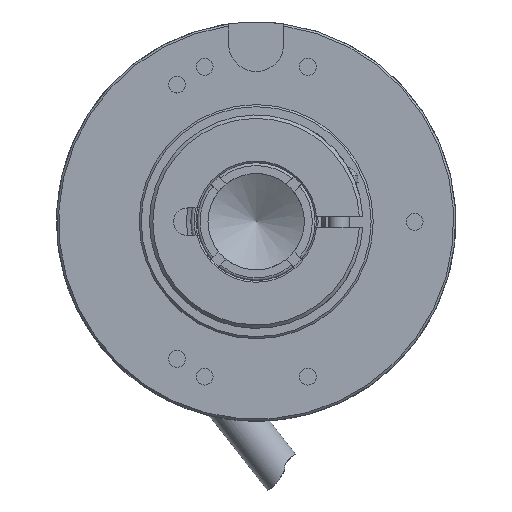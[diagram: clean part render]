
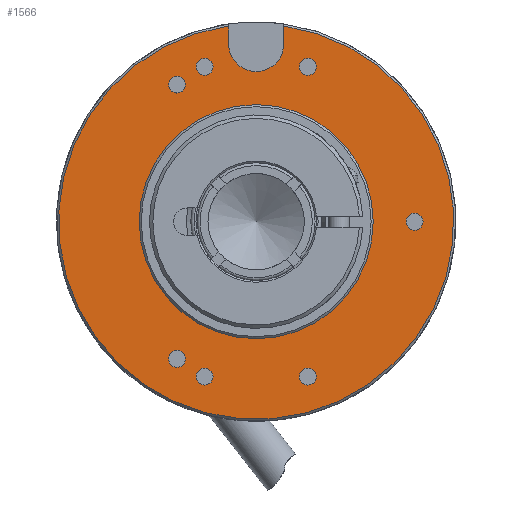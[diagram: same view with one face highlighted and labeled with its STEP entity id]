
A CAD part, left-side view. The second image highlights one B-rep face of the part: STEP entity #1566.
In plain terms, the highlighted planar face has unit normal (-1, 0, 0).
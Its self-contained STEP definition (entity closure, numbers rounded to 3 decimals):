
#1566 = ADVANCED_FACE( '', ( #3282, #3283, #3284, #3285, #3286, #3287, #3288, #3289, #3290 ), #3291, .T. );
#3282 = FACE_OUTER_BOUND( '', #34683, .T. );
#3283 = FACE_BOUND( '', #34684, .T. );
#3284 = FACE_BOUND( '', #34685, .T. );
#3285 = FACE_BOUND( '', #34686, .T. );
#3286 = FACE_BOUND( '', #34687, .T. );
#3287 = FACE_BOUND( '', #34688, .T. );
#3288 = FACE_BOUND( '', #34689, .T. );
#3289 = FACE_BOUND( '', #34690, .T. );
#3290 = FACE_BOUND( '', #34691, .T. );
#3291 = PLANE( '', #34692 );
#34683 = EDGE_LOOP( '', ( #40222, #40223, #40224, #40225 ) );
#34684 = EDGE_LOOP( '', ( #40226 ) );
#34685 = EDGE_LOOP( '', ( #40227 ) );
#34686 = EDGE_LOOP( '', ( #40228 ) );
#34687 = EDGE_LOOP( '', ( #40229 ) );
#34688 = EDGE_LOOP( '', ( #40230 ) );
#34689 = EDGE_LOOP( '', ( #40231 ) );
#34690 = EDGE_LOOP( '', ( #40232 ) );
#34691 = EDGE_LOOP( '', ( #40233 ) );
#34692 = AXIS2_PLACEMENT_3D( '', #40234, #40235, #40236 );
#40222 = ORIENTED_EDGE( '', *, *, #42069, .T. );
#40223 = ORIENTED_EDGE( '', *, *, #41590, .T. );
#40224 = ORIENTED_EDGE( '', *, *, #41502, .T. );
#40225 = ORIENTED_EDGE( '', *, *, #42032, .T. );
#40226 = ORIENTED_EDGE( '', *, *, #41699, .T. );
#40227 = ORIENTED_EDGE( '', *, *, #42085, .T. );
#40228 = ORIENTED_EDGE( '', *, *, #40852, .T. );
#40229 = ORIENTED_EDGE( '', *, *, #42277, .T. );
#40230 = ORIENTED_EDGE( '', *, *, #42171, .T. );
#40231 = ORIENTED_EDGE( '', *, *, #41928, .T. );
#40232 = ORIENTED_EDGE( '', *, *, #40823, .T. );
#40233 = ORIENTED_EDGE( '', *, *, #41484, .F. );
#40234 = CARTESIAN_POINT( '', ( 15., -19.789, 11.425 ) );
#40235 = DIRECTION( '', ( -1., 0., 0. ) );
#40236 = DIRECTION( '', ( 0., 0., 1. ) );
#40823 = EDGE_CURVE( '', #42713, #42713, #42714, .T. );
#40852 = EDGE_CURVE( '', #42763, #42763, #42764, .T. );
#41484 = EDGE_CURVE( '', #43759, #43759, #43760, .T. );
#41502 = EDGE_CURVE( '', #43780, #43784, #43786, .T. );
#41590 = EDGE_CURVE( '', #43915, #43780, #43916, .T. );
#41699 = EDGE_CURVE( '', #44063, #44063, #44064, .T. );
#41928 = EDGE_CURVE( '', #44357, #44357, #44358, .T. );
#42032 = EDGE_CURVE( '', #43784, #44483, #44485, .T. );
#42069 = EDGE_CURVE( '', #44483, #43915, #44526, .T. );
#42085 = EDGE_CURVE( '', #44543, #44543, #44544, .T. );
#42171 = EDGE_CURVE( '', #44646, #44646, #44647, .T. );
#42277 = EDGE_CURVE( '', #44759, #44759, #44760, .T. );
#42713 = VERTEX_POINT( '', #46154 );
#42714 = CIRCLE( '', #46155, 1.23 );
#42763 = VERTEX_POINT( '', #46306 );
#42764 = CIRCLE( '', #46307, 1.23 );
#43759 = VERTEX_POINT( '', #50316 );
#43760 = CIRCLE( '', #50317, 17. );
#43780 = VERTEX_POINT( '', #50391 );
#43784 = VERTEX_POINT( '', #50405 );
#43786 = LINE( '', #50408, #50409 );
#43915 = VERTEX_POINT( '', #50919 );
#43916 = CIRCLE( '', #50920, 28.7 );
#44063 = VERTEX_POINT( '', #51499 );
#44064 = CIRCLE( '', #51500, 1.23 );
#44357 = VERTEX_POINT( '', #52797 );
#44358 = CIRCLE( '', #52798, 1.23 );
#44483 = VERTEX_POINT( '', #53418 );
#44485 = CIRCLE( '', #53421, 4. );
#44526 = LINE( '', #53683, #53684 );
#44543 = VERTEX_POINT( '', #53730 );
#44544 = CIRCLE( '', #53731, 1.23 );
#44646 = VERTEX_POINT( '', #54156 );
#44647 = CIRCLE( '', #54157, 1.23 );
#44759 = VERTEX_POINT( '', #54506 );
#44760 = CIRCLE( '', #54507, 1.23 );
#46154 = CARTESIAN_POINT( '', ( 15., -8.565, 23.115 ) );
#46155 = AXIS2_PLACEMENT_3D( '', #54913, #54914, #54915 );
#46306 = CARTESIAN_POINT( '', ( 15., -8.565, -21.885 ) );
#46307 = AXIS2_PLACEMENT_3D( '', #54947, #54948, #54949 );
#50316 = CARTESIAN_POINT( '', ( 15., -14.722, 8.5 ) );
#50317 = AXIS2_PLACEMENT_3D( '', #55607, #55608, #55609 );
#50391 = CARTESIAN_POINT( '', ( 15., -4., 28.42 ) );
#50405 = CARTESIAN_POINT( '', ( 15., -4., 25.8 ) );
#50408 = CARTESIAN_POINT( '', ( 15., -4., 20.25 ) );
#50409 = VECTOR( '', #55627, 1000. );
#50919 = CARTESIAN_POINT( '', ( 15., 4., 28.42 ) );
#50920 = AXIS2_PLACEMENT_3D( '', #55708, #55709, #55710 );
#51499 = CARTESIAN_POINT( '', ( 15., 10.435, -19.304 ) );
#51500 = AXIS2_PLACEMENT_3D( '', #55802, #55803, #55804 );
#52797 = CARTESIAN_POINT( '', ( 15., 6.435, 23.115 ) );
#52798 = AXIS2_PLACEMENT_3D( '', #56013, #56014, #56015 );
#53418 = CARTESIAN_POINT( '', ( 15., 4., 25.8 ) );
#53421 = AXIS2_PLACEMENT_3D( '', #56093, #56094, #56095 );
#53683 = CARTESIAN_POINT( '', ( 15., 4., 20.25 ) );
#53684 = VECTOR( '', #56116, 1000. );
#53730 = CARTESIAN_POINT( '', ( 15., 6.435, -21.885 ) );
#53731 = AXIS2_PLACEMENT_3D( '', #56127, #56128, #56129 );
#54156 = CARTESIAN_POINT( '', ( 15., 10.435, 20.534 ) );
#54157 = AXIS2_PLACEMENT_3D( '', #56176, #56177, #56178 );
#54506 = CARTESIAN_POINT( '', ( 15., -24.065, 0.615 ) );
#54507 = AXIS2_PLACEMENT_3D( '', #56221, #56222, #56223 );
#54913 = CARTESIAN_POINT( '', ( 15., -7.5, 22.5 ) );
#54914 = DIRECTION( '', ( 1., 0., 0. ) );
#54915 = DIRECTION( '', ( 0., -0.866, 0.5 ) );
#54947 = CARTESIAN_POINT( '', ( 15., -7.5, -22.5 ) );
#54948 = DIRECTION( '', ( 1., 0., 0. ) );
#54949 = DIRECTION( '', ( 0., -0.866, 0.5 ) );
#55607 = CARTESIAN_POINT( '', ( 15., 0., 0. ) );
#55608 = DIRECTION( '', ( -1., 0., 0. ) );
#55609 = DIRECTION( '', ( 0., -0.866, 0.5 ) );
#55627 = DIRECTION( '', ( 0., 0., -1. ) );
#55708 = CARTESIAN_POINT( '', ( 15., 0., 0. ) );
#55709 = DIRECTION( '', ( -1., 0., 0. ) );
#55710 = DIRECTION( '', ( 0., -0.866, 0.5 ) );
#55802 = CARTESIAN_POINT( '', ( 15., 11.5, -19.919 ) );
#55803 = DIRECTION( '', ( 1., 0., 0. ) );
#55804 = DIRECTION( '', ( 0., -0.866, 0.5 ) );
#56013 = CARTESIAN_POINT( '', ( 15., 7.5, 22.5 ) );
#56014 = DIRECTION( '', ( 1., 0., 0. ) );
#56015 = DIRECTION( '', ( 0., -0.866, 0.5 ) );
#56093 = CARTESIAN_POINT( '', ( 15., 0., 25.8 ) );
#56094 = DIRECTION( '', ( 1., 0., 0. ) );
#56095 = DIRECTION( '', ( 0., 0.5, 0.866 ) );
#56116 = DIRECTION( '', ( 0., 0., 1. ) );
#56127 = CARTESIAN_POINT( '', ( 15., 7.5, -22.5 ) );
#56128 = DIRECTION( '', ( 1., 0., 0. ) );
#56129 = DIRECTION( '', ( 0., -0.866, 0.5 ) );
#56176 = CARTESIAN_POINT( '', ( 15., 11.5, 19.919 ) );
#56177 = DIRECTION( '', ( 1., 0., 0. ) );
#56178 = DIRECTION( '', ( 0., -0.866, 0.5 ) );
#56221 = CARTESIAN_POINT( '', ( 15., -23., 0. ) );
#56222 = DIRECTION( '', ( 1., 0., 0. ) );
#56223 = DIRECTION( '', ( 0., -0.866, 0.5 ) );
